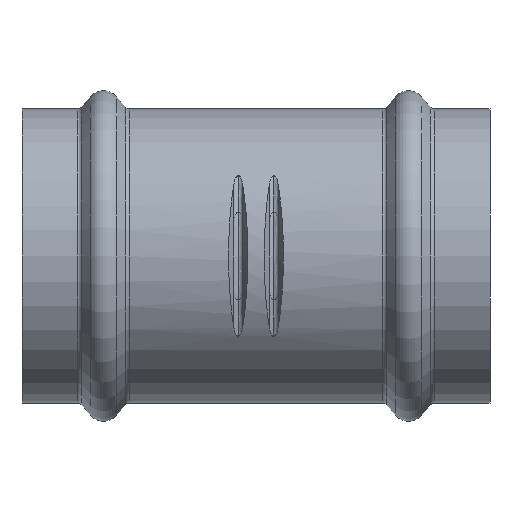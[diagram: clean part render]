
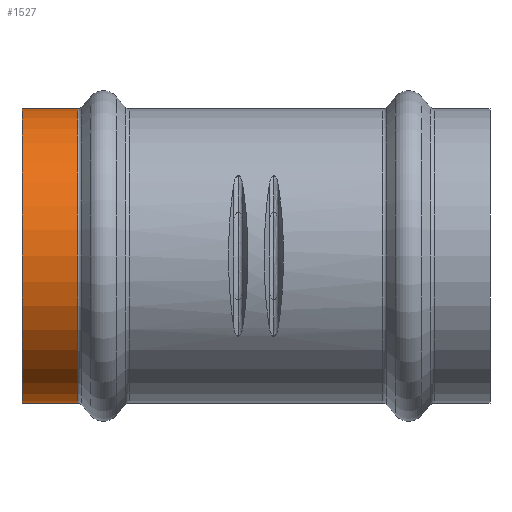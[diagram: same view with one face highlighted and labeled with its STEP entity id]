
A CAD part, front view. The second image highlights one B-rep face of the part: STEP entity #1527.
In plain terms, the highlighted cylindrical face has radius 28.9 mm (diameter 57.8 mm), a partial arc.
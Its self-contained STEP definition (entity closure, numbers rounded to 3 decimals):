
#88 = VERTEX_POINT ( 'NONE', #2599 ) ;
#125 = LINE ( 'NONE', #1290, #1218 ) ;
#160 = ORIENTED_EDGE ( 'NONE', *, *, #1995, .T. ) ;
#228 = VERTEX_POINT ( 'NONE', #2289 ) ;
#834 = EDGE_LOOP ( 'NONE', ( #2090, #1240, #160, #1826 ) ) ;
#977 = VERTEX_POINT ( 'NONE', #1874 ) ;
#1000 = AXIS2_PLACEMENT_3D ( 'NONE', #2320, #1068, #2532 ) ;
#1061 = EDGE_CURVE ( 'NONE', #1300, #977, #2390, .T. ) ;
#1068 = DIRECTION ( 'NONE',  ( -1., 0., 0. ) ) ;
#1155 = VECTOR ( 'NONE', #1227, 1000. ) ;
#1169 = AXIS2_PLACEMENT_3D ( 'NONE', #2505, #2297, #1259 ) ;
#1218 = VECTOR ( 'NONE', #2120, 1000. ) ;
#1227 = DIRECTION ( 'NONE',  ( -1., 0., 0. ) ) ;
#1240 = ORIENTED_EDGE ( 'NONE', *, *, #2429, .T. ) ;
#1259 = DIRECTION ( 'NONE',  ( 0., 0., 1. ) ) ;
#1290 = CARTESIAN_POINT ( 'NONE',  ( -16.83, 0., -28.9 ) ) ;
#1300 = VERTEX_POINT ( 'NONE', #2029 ) ;
#1348 = AXIS2_PLACEMENT_3D ( 'NONE', #1737, #1759, #1797 ) ;
#1527 = ADVANCED_FACE ( 'NONE', ( #1795 ), #2227, .T. ) ;
#1667 = CIRCLE ( 'NONE', #1348, 28.9 ) ;
#1737 = CARTESIAN_POINT ( 'NONE',  ( -35.063, 0., 0. ) ) ;
#1759 = DIRECTION ( 'NONE',  ( -1., 0., 0. ) ) ;
#1795 = FACE_OUTER_BOUND ( 'NONE', #834, .T. ) ;
#1797 = DIRECTION ( 'NONE',  ( 0., 0., 1. ) ) ;
#1826 = ORIENTED_EDGE ( 'NONE', *, *, #1061, .F. ) ;
#1846 = CARTESIAN_POINT ( 'NONE',  ( -16.83, 0., 28.9 ) ) ;
#1871 = EDGE_CURVE ( 'NONE', #88, #1300, #125, .T. ) ;
#1874 = CARTESIAN_POINT ( 'NONE',  ( -46., 0., 28.9 ) ) ;
#1995 = EDGE_CURVE ( 'NONE', #228, #977, #2194, .T. ) ;
#2029 = CARTESIAN_POINT ( 'NONE',  ( -46., 0., -28.9 ) ) ;
#2090 = ORIENTED_EDGE ( 'NONE', *, *, #1871, .F. ) ;
#2120 = DIRECTION ( 'NONE',  ( -1., 0., 0. ) ) ;
#2194 = LINE ( 'NONE', #1846, #1155 ) ;
#2227 = CYLINDRICAL_SURFACE ( 'NONE', #1169, 28.9 ) ;
#2289 = CARTESIAN_POINT ( 'NONE',  ( -35.063, 0., 28.9 ) ) ;
#2297 = DIRECTION ( 'NONE',  ( -1., 0., 0. ) ) ;
#2320 = CARTESIAN_POINT ( 'NONE',  ( -46., 0., 0. ) ) ;
#2390 = CIRCLE ( 'NONE', #1000, 28.9 ) ;
#2429 = EDGE_CURVE ( 'NONE', #88, #228, #1667, .T. ) ;
#2505 = CARTESIAN_POINT ( 'NONE',  ( -16.83, 0., 0. ) ) ;
#2532 = DIRECTION ( 'NONE',  ( 0., 0., 1. ) ) ;
#2599 = CARTESIAN_POINT ( 'NONE',  ( -35.063, 0., -28.9 ) ) ;
